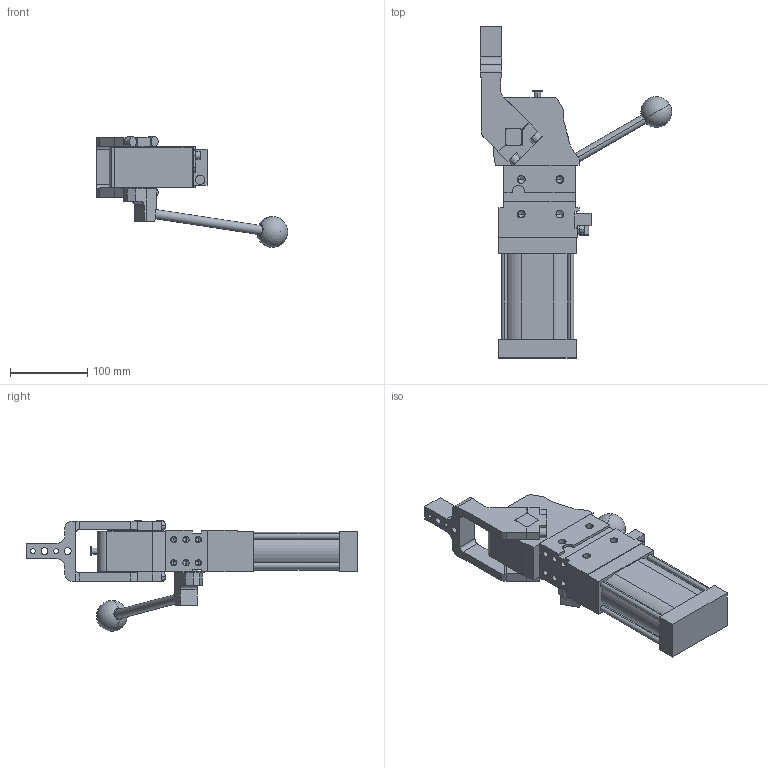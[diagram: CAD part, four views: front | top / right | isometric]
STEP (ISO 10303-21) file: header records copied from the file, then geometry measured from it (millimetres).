
FILE_DESCRIPTION (( 'STEP AP214' ), '1' );
FILE_NAME ('cplm63lbh1ci1g_107.STEP', '2023-01-26T14:35:04', ( '' ), ( '' ), 'SwSTEP 2.0', 'SolidWorks 2022', '' );
FILE_SCHEMA (( 'AUTOMOTIVE_DESIGN' ));
Length unit declared in the file: millimetre
Products named in the file (5): comando_manuale_cplm_63; leva_cx_offset_15_cpl63; cplm63lbh1ci1g_107; meccanica_cplm_63; blocchetto_VEP_0
Assembly tree (4 placements, depth 2):
  cplm63lbh1ci1g_107
    meccanica_cplm_63
    blocchetto_VEP_0
    leva_cx_offset_15_cpl63
    comando_manuale_cplm_63
Bounding box: 247.96 x 430.5 x 143.5 mm (x, y, z)
Volume: 1858154.9 mm3; surface area: 205684.9 mm2
Topology: 4 solids, 4 shells, 430 faces, 1128 edges, 699 vertices
Faces by surface type: plane 217, cylinder 161, cone 50, sphere 2
Entity records: 14525 total; most frequent: DIRECTION 2307, CARTESIAN_POINT 2294, ORIENTED_EDGE 2154, EDGE_CURVE 1077, AXIS2_PLACEMENT_3D 799, LINE 709, VECTOR 709, VERTEX_POINT 696
